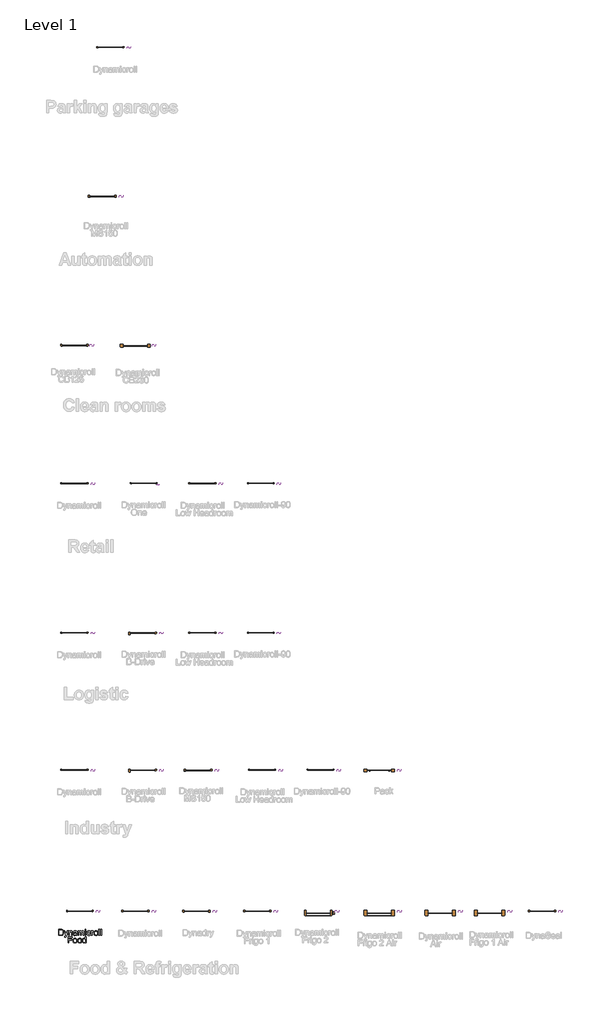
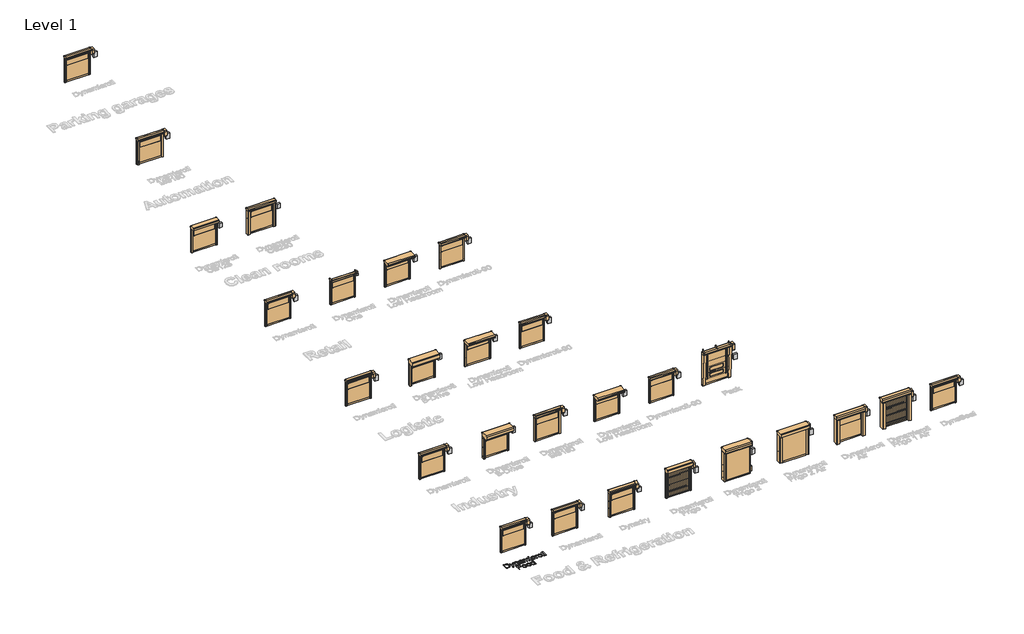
# One storey, part 1 of 18: 27 doors, 27 electric distribution boards, 1 proxy.
"""IFC4 building model written with IfcOpenShell, lengths in millimetres."""

from ifc_helpers import new_model, si_unit, origin, origin_with_axes, place, context, project, spatial, polyline, outline, extrude, transform, mapped, element, save
from components import door_8d8b76a4, door_111b3a7b, door_f3b390bc, door_73d46575, door_7dfef6e7, door_fc38a23d, door_0f29b29e, door_dcf74658, door_a66aba2e, door_ffd00a84, door_82254b21, door_781c7d04, door_c5269588, cb125_eadb58d3, cb230_7affb9d1, do_wpb_pack_pack_5cf3cf8c, ee_wpb_control_panel_bmp_sh_control_panel_one_fab0d9c8, ee_wpb_control_panel_bmp_sh_control_panel_pvc_26d0edfe, ee_wpb_control_panel_bmp_sh_control_panel_powder_coated_2337cf2d

model = new_model("IFC4")

# Units and contexts
model_context = context("Model", 3, world=origin())
ifc_project = project(units=[si_unit("LENGTHUNIT", "METRE", prefix="MILLI")], contexts=[model_context])

# Site, building, storey
site = spatial("IfcSite", under=ifc_project)
building = spatial("IfcBuilding", under=site)
storey = spatial("IfcBuildingStorey", under=building, Name="Level 1", Elevation=0.0)

# Proxy
placement = place(None, origin())
element("IfcBuildingElementProxy", 1, Name="500mm", ObjectType="500mm", at=placement, inside=storey, context=model_context, shape_type="SweptSolid", body=[
    extrude(outline(polyline([(202.3822984, 7606.4708973), (202.3822984, 8108.7524481), (375.6547181, 8108.7524481), (427.4341089, 8106.9436949), (465.2952976, 8101.5174355), (505.3331214, 8087.5685765), (539.1169513, 8065.5876273), (557.7333131, 8047.6227232), (573.851143, 8027.3278998), (587.470441, 8004.7031571), (598.5912072, 7979.7484951), (613.3984575, 7923.7691182), (618.3342076, 7860.309474), (614.9926128, 7806.3994333), (604.9678284, 7758.9579843), (589.7007256, 7718.567607), (570.6321755, 7685.810781), (548.6818831, 7659.9517424), (524.7695535, 7640.2547272), (497.3163596, 7625.6467463), (464.7434746, 7615.0548106), (426.9895848, 7608.6168756), (383.9933766, 7606.4708973), (202.3822984, 7606.4708973)]), holes=[polyline([(265.1674922, 7669.2560912), (376.2678547, 7669.2560912), (422.2224473, 7671.5246968), (457.0792663, 7678.3305137), (483.382829, 7689.2750031), (503.6776524, 7703.9596261), (525.489989, 7731.1369085), (541.8760662, 7766.3156242), (552.1307769, 7809.6490576), (555.5490137, 7861.2904927), (553.8743842, 7897.741467), (548.8504957, 7929.7165438), (540.4773482, 7957.2157229), (528.7549417, 7980.2390044), (514.6336381, 7999.3075545), (499.063799, 8014.9425393), (482.0454247, 8027.1439588), (463.5785149, 8035.911813), (427.4647657, 8043.4533939), (374.5510721, 8045.9672542), (265.1674922, 8045.9672542), (265.1674922, 7669.2560912)])]), origin_with_axes(), (0.0, 0.0, 1.0), 5.0),
    extrude(outline(polyline([(696.8156999, 7465.2042112), (688.9675506, 7525.6594857), (720.8506569, 7520.1412558), (737.6199445, 7521.8733669), (750.6490985, 7527.0697), (760.7965102, 7535.3623734), (768.9205709, 7546.3835048), (786.0883974, 7592.6140089), (790.9934906, 7607.819798), (657.5749537, 7975.3339112), (723.7937129, 7975.3339112), (794.5496833, 7770.5462672), (819.1977769, 7688.6312096), (843.8458706, 7760.9813353), (916.5638783, 7975.3339112), (982.2921281, 7975.3339112), (853.9013118, 7597.6417295), (820.5466776, 7515.7266719), (803.4708216, 7489.5763934), (784.1263601, 7471.4582051), (761.6549015, 7460.8815978), (735.1980547, 7457.356062), (717.0185528, 7459.3180993), (696.8156999, 7465.2042112)])), origin_with_axes(), (0.0, 0.0, 1.0), 5.0),
    extrude(outline(polyline([(1034.2861168, 7606.4708973), (1034.2861168, 7975.3339112), (1097.0713106, 7975.3339112), (1097.0713106, 7923.8304318), (1118.8836473, 7949.7967693), (1145.079911, 7968.3441533), (1175.6601018, 7979.4725836), (1210.6242198, 7983.1820604), (1241.5722926, 7980.1930192), (1269.9145347, 7971.2258956), (1293.5509529, 7957.3996639), (1310.3815542, 7939.8332986), (1321.8012244, 7918.572785), (1329.2048496, 7893.6641082), (1332.5157875, 7832.963579), (1332.5157875, 7606.4708973), (1269.7305937, 7606.4708973), (1269.7305937, 7824.5022932), (1267.9218406, 7856.9678792), (1262.4955811, 7880.0524744), (1252.4861252, 7896.5918358), (1236.9277825, 7909.4217204), (1216.9855126, 7917.65308), (1193.8242754, 7920.3968666), (1174.7595574, 7918.8563607), (1157.0514043, 7914.2348431), (1140.699816, 7906.5323139), (1125.7047926, 7895.7487729), (1113.1776442, 7880.6579469), (1104.2296811, 7860.0335625), (1098.8609032, 7833.8756198), (1097.0713106, 7802.1841188), (1097.0713106, 7606.4708973), (1034.2861168, 7606.4708973)])), origin_with_axes(), (0.0, 0.0, 1.0), 5.0),
    extrude(outline(polyline([(1654.289906, 7653.5597927), (1624.292195, 7627.8387099), (1593.4054358, 7611.0081086), (1560.9245213, 7601.7190882), (1526.1443443, 7598.6227481), (1498.1891448, 7600.4851507), (1473.6751748, 7606.0723585), (1452.6024342, 7615.3843715), (1434.9709232, 7628.4211897), (1421.0488889, 7644.3550786), (1411.1045788, 7662.3583038), (1405.1379926, 7682.4308651), (1403.1491306, 7704.5727627), (1406.1535002, 7730.6004139), (1415.1666091, 7754.2368321), (1429.0694829, 7774.4703418), (1446.743147, 7790.2892676), (1467.5131514, 7802.2454324), (1490.7050455, 7810.8906593), (1545.0289534, 7820.3329639), (1609.2243616, 7830.2657777), (1653.922024, 7841.9153743), (1654.289906, 7855.8948901), (1649.9672925, 7883.9152354), (1636.9994522, 7902.2480215), (1623.924313, 7910.1881412), (1607.9980883, 7915.8596553), (1567.5923825, 7920.3968666), (1530.1910463, 7917.3771685), (1504.0714246, 7908.3180744), (1486.2598047, 7891.5641152), (1473.7824737, 7865.4598219), (1410.9972798, 7873.3079712), (1421.8957839, 7907.6436241), (1438.1592338, 7934.621637), (1461.3051427, 7955.2536856), (1492.8510238, 7970.5514452), (1531.432648, 7980.0244066), (1575.6857863, 7983.1820604), (1618.1301715, 7980.3922886), (1651.7760457, 7972.0229732), (1677.1445749, 7959.4383433), (1694.7569255, 7944.0026279), (1706.4371788, 7924.9187494), (1714.0094165, 7901.3896301), (1717.0750998, 7846.4525855), (1717.0750998, 7768.3389752), (1720.2634105, 7659.2619636), (1724.9845627, 7632.2992791), (1732.7713983, 7606.4708973), (1669.9862044, 7606.4708973), (1659.9307632, 7628.2985624), (1654.289906, 7653.5597927)]), holes=[polyline([(1654.289906, 7779.1301804), (1612.1061039, 7768.6762004), (1552.99973, 7759.8776893), (1498.9823904, 7749.6996208), (1484.9262325, 7742.7405197), (1474.5182377, 7733.144931), (1468.0803028, 7721.6486187), (1465.9343245, 7708.9873467), (1470.6094915, 7690.3173354), (1484.6349925, 7675.0195758), (1507.7042593, 7664.8108504), (1539.5107235, 7661.407942), (1573.2332397, 7665.163404), (1603.0316813, 7676.4297901), (1627.1892657, 7693.0304651), (1643.9892101, 7712.7887939), (1651.4388205, 7733.144931), (1653.922024, 7761.3492173), (1654.289906, 7779.1301804)])]), origin_with_axes(), (0.0, 0.0, 1.0), 5.0),
    extrude(outline(polyline([(1803.4047414, 7606.4708973), (1803.4047414, 7975.3339112), (1866.1899352, 7975.3339112), (1866.1899352, 7914.633382), (1885.0745443, 7942.5157715), (1909.354756, 7964.358765), (1938.2028358, 7978.4762365), (1970.7910492, 7983.1820604), (2005.7091819, 7978.384266), (2033.6988703, 7963.990883), (2054.6068304, 7940.952273), (2068.2797779, 7910.218798), (2091.1651037, 7942.1402253), (2117.2693969, 7964.9412448), (2146.5926576, 7978.6218565), (2179.1348858, 7983.1820604), (2204.2696567, 7981.2851689), (2226.3310801, 7975.5944943), (2245.319156, 7966.1100366), (2261.2338844, 7952.8317958), (2273.8146822, 7935.6064878), (2282.8009663, 7914.2808284), (2288.1927368, 7888.8548176), (2289.9899937, 7859.3284554), (2289.9899937, 7606.4708973), (2227.2047998, 7606.4708973), (2227.2047998, 7832.3504424), (2225.7486002, 7863.6663972), (2221.3800016, 7884.7736267), (2213.1946272, 7899.2283234), (2200.2881005, 7910.58668), (2183.6874255, 7917.9443199), (2164.419606, 7920.3968666), (2146.6271466, 7918.8257039), (2130.4058498, 7914.1122158), (2115.7557158, 7906.2564024), (2102.6767444, 7895.2582636), (2091.9200282, 7880.7959026), (2084.2366594, 7862.5474228), (2079.6266382, 7840.5128241), (2078.0899644, 7814.6921066), (2078.0899644, 7606.4708973), (2015.3047706, 7606.4708973), (2015.3047706, 7839.3402003), (2011.6719359, 7874.8408128), (2000.7734318, 7900.1633568), (1992.3466348, 7909.0155173), (1981.5975828, 7915.3384891), (1953.1327134, 7920.3968666), (1928.9444722, 7917.0246149), (1906.6569547, 7906.9078601), (1888.2628549, 7890.2918566), (1875.7548671, 7867.4218593), (1868.5811682, 7835.6920372), (1866.1899352, 7792.4965596), (1866.1899352, 7606.4708973), (1803.4047414, 7606.4708973)])), origin_with_axes(), (0.0, 0.0, 1.0), 5.0),
    extrude(outline(polyline([(2384.1677844, 8045.9672542), (2384.1677844, 8108.7524481), (2446.9529783, 8108.7524481), (2446.9529783, 8045.9672542), (2384.1677844, 8045.9672542)])), origin_with_axes(), (0.0, 0.0, 1.0), 5.0),
    extrude(outline(polyline([(2384.1677844, 7606.4708973), (2384.1677844, 7975.3339112), (2446.9529783, 7975.3339112), (2446.9529783, 7606.4708973), (2384.1677844, 7606.4708973)])), origin_with_axes(), (0.0, 0.0, 1.0), 5.0),
    extrude(outline(polyline([(2776.5752459, 7739.8894343), (2839.3604398, 7732.041285), (2832.5316302, 7702.4152881), (2821.8553882, 7676.1998638), (2807.3317136, 7653.3950122), (2788.9606064, 7634.0007333), (2767.5161518, 7618.5228648), (2743.7724347, 7607.4672444), (2717.7294551, 7600.8338722), (2689.3872131, 7598.6227481), (2654.1740084, 7601.7075919), (2622.6013025, 7610.9621234), (2594.6690956, 7626.3863424), (2570.3773876, 7647.9802491), (2550.7148614, 7675.3376404), (2536.6701998, 7708.0523133), (2528.2434029, 7746.1242677), (2525.4344706, 7789.5535036), (2530.2322649, 7845.4255816), (2544.625648, 7893.8480492), (2555.4781668, 7914.7981624), (2568.844546, 7932.9508396), (2584.7247855, 7948.3060808), (2603.1188852, 7960.863886), (2644.1223993, 7977.6025168), (2688.5288218, 7983.1820604), (2716.3843866, 7981.2660083), (2741.5804711, 7975.5178522), (2764.1170755, 7965.9375919), (2783.9941995, 7952.5252275), (2800.8746181, 7935.5873273), (2814.4211062, 7915.4304596), (2824.6336637, 7892.0546245), (2831.5122906, 7865.4598219), (2768.7270967, 7857.6116727), (2757.3380833, 7885.0035529), (2739.6031054, 7904.6392544), (2716.5031818, 7916.4574635), (2689.0193311, 7920.3968666), (2667.6860075, 7918.4578219), (2648.4450127, 7912.6406878), (2631.2963468, 7902.9454644), (2616.2400097, 7889.3721516), (2603.9811086, 7871.6065169), (2595.2247507, 7849.3343278), (2589.970936, 7822.5555843), (2588.2196644, 7791.2702863), (2589.9326149, 7759.5136394), (2595.0714666, 7732.4244954), (2603.6362193, 7710.0028543), (2615.626873, 7692.2487159), (2630.384306, 7678.7558773), (2647.2493962, 7669.1181354), (2666.2221437, 7663.3354903), (2687.3025484, 7661.407942), (2719.8141198, 7666.2210647), (2746.470236, 7680.660433), (2757.2499449, 7691.5819298), (2765.8606828, 7705.0939289), (2776.5752459, 7739.8894343)])), origin_with_axes(), (0.0, 0.0, 1.0), 5.0),
    extrude(outline(polyline([(2894.2974844, 7606.4708973), (2894.2974844, 7975.3339112), (2949.234529, 7975.3339112), (2949.234529, 7920.7647486), (2969.5293524, 7952.4026001), (2988.2300205, 7971.0419546), (3006.9920023, 7980.1470339), (3027.4707666, 7983.1820604), (3058.7407362, 7978.3382808), (3090.5012152, 7963.806942), (3069.5319414, 7907.5209967), (3047.4590217, 7917.1778991), (3025.386102, 7920.3968666), (3006.6394487, 7917.3005264), (2989.8854895, 7908.0115061), (2976.3504977, 7893.2349126), (2967.2607468, 7873.6758532), (2959.6271954, 7838.6044363), (2957.0826782, 7800.3447088), (2957.0826782, 7606.4708973), (2894.2974844, 7606.4708973)])), origin_with_axes(), (0.0, 0.0, 1.0), 5.0),
    extrude(outline(polyline([(3114.0456628, 7790.9024043), (3117.4409071, 7838.6734142), (3127.6266398, 7879.8378766), (3144.6028611, 7914.3957915), (3168.3695708, 7942.3471589), (3192.2972289, 7960.2124283), (3218.7080905, 7972.973335), (3247.6021555, 7980.6298791), (3278.979424, 7983.1820604), (3313.6178131, 7980.074224), (3344.9376001, 7970.7507146), (3372.9387848, 7955.2115325), (3397.6213675, 7933.4566774), (3417.7667388, 7906.2219134), (3432.1562898, 7874.2430046), (3440.7900203, 7837.5199508), (3443.6679305, 7796.0527522), (3438.5788963, 7732.6237649), (3432.2176034, 7706.5884495), (3423.3117935, 7684.339253), (3411.9725974, 7665.1212508), (3398.3111462, 7648.1795185), (3382.3274399, 7633.5140561), (3364.0214786, 7621.1248635), (3323.293876, 7604.248277), (3278.979424, 7598.6227481), (3243.8351972, 7601.7190882), (3212.2241703, 7611.0081086), (3184.1463434, 7626.4898092), (3159.6017166, 7648.1641901), (3139.6709431, 7675.6633693), (3125.4346763, 7708.6194647), (3116.8929162, 7747.0324763), (3114.0456628, 7790.9024043)]), holes=[polyline([(3176.8308567, 7791.0250316), (3178.647274, 7760.5713002), (3184.0965261, 7734.2025918), (3193.1786129, 7711.9189063), (3205.8935343, 7693.7202439), (3221.3599065, 7679.5836118), (3238.6963455, 7669.4860174), (3257.9028514, 7663.4274608), (3278.979424, 7661.407942), (3299.9486977, 7663.4389571), (3319.0785615, 7669.5320027), (3336.3690153, 7679.6870786), (3351.8200591, 7693.9041849), (3364.5349805, 7712.2829562), (3373.6170673, 7734.9230273), (3379.0663193, 7761.8243982), (3380.8827367, 7792.9870689), (3379.054823, 7822.4751101), (3373.571082, 7848.1540398), (3364.4315137, 7870.0238579), (3351.6361181, 7888.0845646), (3336.1275927, 7902.2211967), (3318.8486352, 7912.3187911), (3299.7992457, 7918.3773477), (3278.979424, 7920.3968666), (3257.9028514, 7918.3850119), (3238.6963455, 7912.3494479), (3221.3599065, 7902.2901746), (3205.8935343, 7888.207192), (3193.1786129, 7870.062179), (3184.0965261, 7847.8168146), (3178.647274, 7821.4710988), (3176.8308567, 7791.0250316)])]), origin_with_axes(), (0.0, 0.0, 1.0), 5.0),
    extrude(outline(polyline([(3514.3012736, 7606.4708973), (3514.3012736, 8108.7524481), (3577.0864674, 8108.7524481), (3577.0864674, 7606.4708973), (3514.3012736, 7606.4708973)])), origin_with_axes(), (0.0, 0.0, 1.0), 5.0),
    extrude(outline(polyline([(3671.2642582, 7606.4708973), (3671.2642582, 8108.7524481), (3734.0494521, 8108.7524481), (3734.0494521, 7606.4708973), (3671.2642582, 7606.4708973)])), origin_with_axes(), (0.0, 0.0, 1.0), 5.0),
    extrude(outline(polyline([(987.1972214, 6996.5968081), (987.1972214, 7498.8783589), (1324.6676383, 7498.8783589), (1324.6676383, 7436.093165), (1049.9824152, 7436.093165), (1049.9824152, 7286.9783296), (1285.4268922, 7286.9783296), (1285.4268922, 7224.1931358), (1049.9824152, 7224.1931358), (1049.9824152, 6996.5968081), (987.1972214, 6996.5968081)])), origin_with_axes(), (0.0, 0.0, 1.0), 5.0),
    extrude(outline(polyline([(1387.4528322, 7181.028315), (1390.8480764, 7228.7993249), (1401.0338091, 7269.9637874), (1418.0100304, 7304.5217023), (1441.7767401, 7332.4730697), (1465.7043982, 7350.3383391), (1492.1152598, 7363.0992458), (1521.0093248, 7370.7557898), (1552.3865933, 7373.3079712), (1587.0249824, 7370.2001347), (1618.3447694, 7360.8766254), (1646.3459542, 7345.3374432), (1671.0285368, 7323.5825882), (1691.1739081, 7296.3478242), (1705.5634591, 7264.3689154), (1714.1971896, 7227.6458616), (1717.0750998, 7186.178663), (1711.9860656, 7122.7496756), (1705.6247727, 7096.7143603), (1696.7189628, 7074.4651638), (1685.3797667, 7055.2471616), (1671.7183155, 7038.3054293), (1655.7346092, 7023.6399669), (1637.4286479, 7011.2507743), (1596.7010453, 6994.3741877), (1552.3865933, 6988.7486589), (1517.2423665, 6991.844999), (1485.6313396, 7001.1340194), (1457.5535128, 7016.61572), (1433.0088859, 7038.2901009), (1413.0781124, 7065.78928), (1398.8418456, 7098.7453754), (1390.3000855, 7137.1583871), (1387.4528322, 7181.028315)]), holes=[polyline([(1450.238026, 7181.1509424), (1452.0544433, 7150.6972109), (1457.5036954, 7124.3285025), (1466.5857822, 7102.0448171), (1479.3007036, 7083.8461546), (1494.7670758, 7069.7095226), (1512.1035148, 7059.6119282), (1531.3100207, 7053.5533716), (1552.3865933, 7051.5338527), (1573.355867, 7053.5648679), (1592.4857308, 7059.6579135), (1609.7761846, 7069.8129894), (1625.2272284, 7084.0300956), (1637.9421498, 7102.408867), (1647.0242366, 7125.0489381), (1652.4734886, 7151.950309), (1654.289906, 7183.1129797), (1652.4619923, 7212.6010208), (1646.9782513, 7238.2799505), (1637.838683, 7260.1497687), (1625.0432874, 7278.2104754), (1609.534762, 7292.3471075), (1592.2558045, 7302.4447019), (1573.206415, 7308.5032585), (1552.3865933, 7310.5227773), (1531.3100207, 7308.5109227), (1512.1035148, 7302.4753587), (1494.7670758, 7292.4160854), (1479.3007036, 7278.3331028), (1466.5857822, 7260.1880898), (1457.5036954, 7237.9427254), (1452.0544433, 7211.5970096), (1450.238026, 7181.1509424)])]), origin_with_axes(), (0.0, 0.0, 1.0), 5.0),
    extrude(outline(polyline([(1772.0121444, 7181.028315), (1775.4073887, 7228.7993249), (1785.5931214, 7269.9637874), (1802.5693427, 7304.5217023), (1826.3360524, 7332.4730697), (1850.2637105, 7350.3383391), (1876.6745721, 7363.0992458), (1905.5686371, 7370.7557898), (1936.9459056, 7373.3079712), (1971.5842947, 7370.2001347), (2002.9040817, 7360.8766254), (2030.9052664, 7345.3374432), (2055.5878491, 7323.5825882), (2075.7332204, 7296.3478242), (2090.1227714, 7264.3689154), (2098.7565019, 7227.6458616), (2101.6344121, 7186.178663), (2096.5453779, 7122.7496756), (2090.184085, 7096.7143603), (2081.2782751, 7074.4651638), (2069.939079, 7055.2471616), (2056.2776278, 7038.3054293), (2040.2939215, 7023.6399669), (2021.9879602, 7011.2507743), (1981.2603576, 6994.3741877), (1936.9459056, 6988.7486589), (1901.8016788, 6991.844999), (1870.1906519, 7001.1340194), (1842.112825, 7016.61572), (1817.5681982, 7038.2901009), (1797.6374247, 7065.78928), (1783.4011579, 7098.7453754), (1774.8593978, 7137.1583871), (1772.0121444, 7181.028315)]), holes=[polyline([(1834.7973383, 7181.1509424), (1836.6137556, 7150.6972109), (1842.0630077, 7124.3285025), (1851.1450944, 7102.0448171), (1863.8600159, 7083.8461546), (1879.3263881, 7069.7095226), (1896.6628271, 7059.6119282), (1915.869333, 7053.5533716), (1936.9459056, 7051.5338527), (1957.9151793, 7053.5648679), (1977.0450431, 7059.6579135), (1994.3354969, 7069.8129894), (2009.7865407, 7084.0300956), (2022.5014621, 7102.408867), (2031.5835489, 7125.0489381), (2037.0328009, 7151.950309), (2038.8492183, 7183.1129797), (2037.0213046, 7212.6010208), (2031.5375636, 7238.2799505), (2022.3979953, 7260.1497687), (2009.6025997, 7278.2104754), (1994.0940743, 7292.3471075), (1976.8151168, 7302.4447019), (1957.7657273, 7308.5032585), (1936.9459056, 7310.5227773), (1915.869333, 7308.5109227), (1896.6628271, 7302.4753587), (1879.3263881, 7292.4160854), (1863.8600159, 7278.3331028), (1851.1450944, 7260.1880898), (1842.0630077, 7237.9427254), (1836.6137556, 7211.5970096), (1834.7973383, 7181.1509424)])]), origin_with_axes(), (0.0, 0.0, 1.0), 5.0),
    extrude(outline(polyline([(2399.8640829, 6996.5968081), (2399.8640829, 7055.8258093), (2381.0791085, 7026.479556), (2358.3240743, 7005.5179465), (2331.5989801, 6992.9409808), (2300.9038262, 6988.7486589), (2260.3141794, 6994.8187118), (2223.1580979, 7013.0288706), (2191.7041873, 7042.1068766), (2168.2210532, 7080.7804713), (2153.5977439, 7127.4861563), (2148.7233075, 7180.660433), (2153.2145335, 7233.1755878), (2166.6882116, 7280.6017084), (2176.7896381, 7301.7319305), (2189.1290133, 7320.2409934), (2203.7063374, 7336.128897), (2220.5216102, 7349.3956415), (2258.4900978, 7367.3298888), (2300.6585715, 7373.3079712), (2331.3767181, 7369.031343), (2358.5386721, 7356.2014584), (2381.5619536, 7336.5351001), (2399.8640829, 7311.7490507), (2399.8640829, 7498.8783589), (2462.6492767, 7498.8783589), (2462.6492767, 6996.5968081), (2399.8640829, 6996.5968081)]), holes=[polyline([(2211.5085013, 7180.9056877), (2213.2789334, 7150.4596205), (2218.5902298, 7124.1139047), (2227.4423903, 7101.8685403), (2239.835415, 7083.7235273), (2254.6350011, 7069.6405447), (2270.7068457, 7059.5812714), (2288.050949, 7053.5457074), (2306.6673108, 7051.5338527), (2325.371811, 7053.4537369), (2342.6124474, 7059.2133894), (2358.38922, 7068.8128102), (2372.7021289, 7082.2519993), (2384.5854838, 7099.6382557), (2393.0735944, 7121.0788782), (2398.1664608, 7146.5738669), (2399.8640829, 7176.1232218), (2398.1358039, 7208.51983), (2392.9509671, 7236.3025848), (2384.3095723, 7259.4714863), (2372.2116196, 7278.0265344), (2357.5844782, 7292.2436407), (2341.3555172, 7302.3987166), (2323.5247368, 7308.4917622), (2304.0921368, 7310.5227773), (2285.107893, 7308.5722363), (2267.7637898, 7302.7206134), (2252.0598271, 7292.9679084), (2237.996005, 7279.3141214), (2226.4077222, 7261.4603483), (2218.1303773, 7239.107685), (2213.1639703, 7212.2561315), (2211.5085013, 7180.9056877)])]), origin_with_axes(), (0.0, 0.0, 1.0), 5.0),
])

# Doors
door_shape = door_8d8b76a4(model_context)
element("IfcDoor", 2, ObjectType="DO_WPB_Dynamicroll_BMP : Dynamicroll B-Drive", at=placement, inside=storey, context=model_context, shape_type="MappedRepresentation", body=[
    mapped(door_shape, transform((7088.8652486, 32462.1380074, 0.0), x_axis=(1.0, 0.0, 0.0), y_axis=(0.0, 1.0, 0.0), z_axis=(0.0, 0.0, 1.0))),
])
element("IfcDoor", 3, ObjectType="DO_WPB_Dynamicroll_BMP : Dynamicroll B-Drive", at=placement, inside=storey, context=model_context, shape_type="MappedRepresentation", body=[
    mapped(door_shape, transform((7088.8652486, 21224.4832479, 0.0), x_axis=(1.0, 0.0, 0.0), y_axis=(0.0, 1.0, 0.0), z_axis=(0.0, 0.0, 1.0))),
])
door_2_shape = door_111b3a7b(model_context)
element("IfcDoor", 4, ObjectType="DO_WPB_Dynamicroll_BMP : Dynamicroll Low Headroom", at=placement, inside=storey, context=model_context, shape_type="MappedRepresentation", body=[
    mapped(door_2_shape, transform((11988.8652486, 32462.1380074, 0.0), x_axis=(1.0, 0.0, 0.0), y_axis=(0.0, 1.0, 0.0), z_axis=(0.0, 0.0, 1.0))),
])
element("IfcDoor", 5, ObjectType="DO_WPB_Dynamicroll_BMP : Dynamicroll Low Headroom", at=placement, inside=storey, context=model_context, shape_type="MappedRepresentation", body=[
    mapped(door_2_shape, transform((16888.8652486, 21224.4832479, 0.0), x_axis=(1.0, 0.0, 0.0), y_axis=(0.0, 1.0, 0.0), z_axis=(0.0, 0.0, 1.0))),
])
element("IfcDoor", 6, ObjectType="DO_WPB_Dynamicroll_BMP : Dynamicroll Low Headroom", at=placement, inside=storey, context=model_context, shape_type="MappedRepresentation", body=[
    mapped(door_2_shape, transform((11988.8652486, 44698.8509751, 0.0), x_axis=(1.0, 0.0, 0.0), y_axis=(0.0, 1.0, 0.0), z_axis=(0.0, 0.0, 1.0))),
])
door_3_shape = door_f3b390bc(model_context)
element("IfcDoor", 7, ObjectType="DO_WPB_Dynamicroll_BMP : Dynamicroll One", at=placement, inside=storey, context=model_context, shape_type="MappedRepresentation", body=[
    mapped(door_3_shape, transform((7181.7584674, 44698.8509751, 0.0), x_axis=(1.0, 0.0, 0.0), y_axis=(0.0, 1.0, 0.0), z_axis=(0.0, 0.0, 1.0))),
])
door_4_shape = door_73d46575(model_context)
element("IfcDoor", 8, ObjectType="DO_WPB_Dynamicroll_BMP : Dynamicroll", at=placement, inside=storey, context=model_context, shape_type="MappedRepresentation", body=[
    mapped(door_4_shape, transform((6497.2684086, 9654.9840976, 0.0), x_axis=(1.0, 0.0, 0.0), y_axis=(0.0, 1.0, 0.0), z_axis=(0.0, 0.0, 1.0))),
])
element("IfcDoor", 9, ObjectType="DO_WPB_Dynamicroll_BMP : Dynamicroll", at=placement, inside=storey, context=model_context, shape_type="MappedRepresentation", body=[
    mapped(door_4_shape, transform((1488.8652486, 32462.1380074, 0.0), x_axis=(1.0, 0.0, 0.0), y_axis=(0.0, 1.0, 0.0), z_axis=(0.0, 0.0, 1.0))),
])
element("IfcDoor", 10, ObjectType="DO_WPB_Dynamicroll_BMP : Dynamicroll", at=placement, inside=storey, context=model_context, shape_type="MappedRepresentation", body=[
    mapped(door_4_shape, transform((1488.8652486, 21224.4832479, 0.0), x_axis=(1.0, 0.0, 0.0), y_axis=(0.0, 1.0, 0.0), z_axis=(0.0, 0.0, 1.0))),
])
element("IfcDoor", 11, ObjectType="DO_WPB_Dynamicroll_BMP : Dynamicroll", at=placement, inside=storey, context=model_context, shape_type="MappedRepresentation", body=[
    mapped(door_4_shape, transform((1488.8652486, 44698.8509751, 0.0), x_axis=(1.0, 0.0, 0.0), y_axis=(0.0, 1.0, 0.0), z_axis=(0.0, 0.0, 1.0))),
])
element("IfcDoor", 12, ObjectType="DO_WPB_Dynamicroll_BMP : Dynamicroll", at=placement, inside=storey, context=model_context, shape_type="MappedRepresentation", body=[
    mapped(door_4_shape, transform((4445.6536388, 80429.8524972, 0.0), x_axis=(1.0, 0.0, 0.0), y_axis=(0.0, 1.0, 0.0), z_axis=(0.0, 0.0, 1.0))),
])
door_5_shape = door_7dfef6e7(model_context)
element("IfcDoor", 13, ObjectType="DO_WPB_Dynamicroll_BMP : Dynamicroll-90", at=placement, inside=storey, context=model_context, shape_type="MappedRepresentation", body=[
    mapped(door_5_shape, transform((16781.7584674, 32462.1380074, 0.0), x_axis=(1.0, 0.0, 0.0), y_axis=(0.0, 1.0, 0.0), z_axis=(0.0, 0.0, 1.0))),
])
element("IfcDoor", 14, ObjectType="DO_WPB_Dynamicroll_BMP : Dynamicroll-90", at=placement, inside=storey, context=model_context, shape_type="MappedRepresentation", body=[
    mapped(door_5_shape, transform((21681.7584674, 21224.4832479, 0.0), x_axis=(1.0, 0.0, 0.0), y_axis=(0.0, 1.0, 0.0), z_axis=(0.0, 0.0, 1.0))),
])
element("IfcDoor", 15, ObjectType="DO_WPB_Dynamicroll_BMP : Dynamicroll-90", at=placement, inside=storey, context=model_context, shape_type="MappedRepresentation", body=[
    mapped(door_5_shape, transform((16781.7584674, 44698.8509751, 0.0), x_axis=(1.0, 0.0, 0.0), y_axis=(0.0, 1.0, 0.0), z_axis=(0.0, 0.0, 1.0))),
])
door_6_shape = door_fc38a23d(model_context)
element("IfcDoor", 16, ObjectType="DO_WPB_Dynamicroll_BMP : Dynamicroll MS150", at=placement, inside=storey, context=model_context, shape_type="MappedRepresentation", body=[
    mapped(door_6_shape, transform((11635.9345844, 21224.4832479, 0.0), x_axis=(1.0, 0.0, 0.0), y_axis=(0.0, 1.0, 0.0), z_axis=(0.0, 0.0, 1.0))),
])
element("IfcDoor", 17, ObjectType="DO_WPB_Dynamicroll_BMP : Dynamicroll MS150", at=placement, inside=storey, context=model_context, shape_type="MappedRepresentation", body=[
    mapped(door_6_shape, transform((3788.8652486, 68233.2125546, 0.0), x_axis=(1.0, 0.0, 0.0), y_axis=(0.0, 1.0, 0.0), z_axis=(0.0, 0.0, 1.0))),
])
door_7_shape = door_0f29b29e(model_context)
element("IfcDoor", 18, ObjectType="DO_WPB_Dynamicroll_BMP : Dynamicroll Food Inox", at=placement, inside=storey, context=model_context, shape_type="MappedRepresentation", body=[
    mapped(door_7_shape, transform((1948.7786866, 9654.9840976, 0.0), x_axis=(1.0, 0.0, 0.0), y_axis=(0.0, 1.0, 0.0), z_axis=(0.0, 0.0, 1.0))),
])
door_8_shape = door_dcf74658(model_context)
element("IfcDoor", 19, ObjectType="DO_WPB_Dynadry_BMP : Dynadry", at=placement, inside=storey, context=model_context, shape_type="MappedRepresentation", body=[
    mapped(door_8_shape, transform((11497.2684086, 9654.9840976, 0.0), x_axis=(1.0, 0.0, 0.0), y_axis=(0.0, 1.0, 0.0), z_axis=(0.0, 0.0, 1.0))),
])
door_9_shape = door_a66aba2e(model_context)
element("IfcDoor", 20, ObjectType="DO_WPB_Dynamicroll Frigo_Air_BMP : Dynamicroll Frigo1", at=placement, inside=storey, context=model_context, shape_type="MappedRepresentation", body=[
    mapped(door_9_shape, transform((16497.2684086, 9654.9840976, 0.0), x_axis=(1.0, 0.0, 0.0), y_axis=(0.0, 1.0, 0.0), z_axis=(0.0, 0.0, 1.0))),
])
door_10_shape = door_ffd00a84(model_context)
element("IfcDoor", 21, ObjectType="DO_WPB_Dynamicroll Frigo_Air_BMP : Dynamicroll Frigo2", at=placement, inside=storey, context=model_context, shape_type="MappedRepresentation", body=[
    mapped(door_10_shape, transform((21497.2684086, 9654.9840976, 0.0), x_axis=(1.0, 0.0, 0.0), y_axis=(0.0, 1.0, 0.0), z_axis=(0.0, 0.0, 1.0))),
])
door_11_shape = door_82254b21(model_context)
element("IfcDoor", 22, ObjectType="DO_WPB_Dynamicroll Frigo_Air_BMP : Dynamicroll Frigo2 Air", at=placement, inside=storey, context=model_context, shape_type="MappedRepresentation", body=[
    mapped(door_11_shape, transform((26497.2684086, 9654.9840976, 0.0), x_axis=(1.0, 0.0, 0.0), y_axis=(0.0, 1.0, 0.0), z_axis=(0.0, 0.0, 1.0))),
])
door_12_shape = door_781c7d04(model_context)
element("IfcDoor", 23, ObjectType="DO_WPB_Dynamicroll Frigo_Air_BMP : Dynamicroll Air", at=placement, inside=storey, context=model_context, shape_type="MappedRepresentation", body=[
    mapped(door_12_shape, transform((31497.2684086, 9654.9840976, 0.0), x_axis=(1.0, 0.0, 0.0), y_axis=(0.0, 1.0, 0.0), z_axis=(0.0, 0.0, 1.0))),
])
door_13_shape = door_c5269588(model_context)
element("IfcDoor", 24, ObjectType="DO_WPB_Dynamicroll Frigo_Air_BMP : Dynamicroll Frigo1 Air", at=placement, inside=storey, context=model_context, shape_type="MappedRepresentation", body=[
    mapped(door_13_shape, transform((35540.4620886, 9654.9840976, 0.0), x_axis=(1.0, 0.0, 0.0), y_axis=(0.0, 1.0, 0.0), z_axis=(0.0, 0.0, 1.0))),
])
element("IfcDoor", 25, ObjectType="DO_WPB_DynaSeal_BMP : DynaSeal", at=placement, inside=storey, context=model_context, shape_type="MappedRepresentation", body=[
    mapped(door_4_shape, transform((39840.4620886, 9654.9840976, 0.0), x_axis=(1.0, 0.0, 0.0), y_axis=(0.0, 1.0, 0.0), z_axis=(0.0, 0.0, 1.0))),
])
cb125_shape = cb125_eadb58d3(model_context)
element("IfcDoor", 26, ObjectType="DO_WPB_Dynamicroll Cleanroom_BMP : CB125", at=placement, inside=storey, context=model_context, shape_type="MappedRepresentation", body=[
    mapped(cb125_shape, transform((1497.2684086, 56020.8553836, 0.0), x_axis=(1.0, 0.0, 0.0), y_axis=(0.0, 1.0, 0.0), z_axis=(0.0, 0.0, 1.0))),
])
cb230_shape = cb230_7affb9d1(model_context)
element("IfcDoor", 27, ObjectType="DO_WPB_Dynamicroll Cleanroom_BMP : CB230", at=placement, inside=storey, context=model_context, shape_type="MappedRepresentation", body=[
    mapped(cb230_shape, transform((6497.2684086, 56020.8553836, 0.0), x_axis=(1.0, 0.0, 0.0), y_axis=(0.0, 1.0, 0.0), z_axis=(0.0, 0.0, 1.0))),
])
do_wpb_pack_pack_shape = do_wpb_pack_pack_5cf3cf8c(model_context)
element("IfcDoor", 28, ObjectType="DO_WPB_Pack : Pack", at=placement, inside=storey, context=model_context, shape_type="MappedRepresentation", body=[
    mapped(do_wpb_pack_pack_shape, transform((26497.2684086, 21224.4832479, 0.0), x_axis=(1.0, 0.0, 0.0), y_axis=(0.0, 1.0, 0.0), z_axis=(0.0, 0.0, 1.0))),
])

# Electric distribution boards
ee_wpb_control_panel_bmp_sh_control_panel_one_shape = ee_wpb_control_panel_bmp_sh_control_panel_one_fab0d9c8(model_context)
element("IfcElectricDistributionBoard", 29, ObjectType="EE_WPB_control panel_BMP_SH : Control panel One", at=placement, inside=storey, context=model_context, shape_type="MappedRepresentation", body=[
    mapped(ee_wpb_control_panel_bmp_sh_control_panel_one_shape, transform((8371.7584674, 44573.8509751, 2050.0), x_axis=(1.0, 0.0, 0.0), y_axis=(0.0, 1.0, 0.0), z_axis=(0.0, 0.0, 1.0))),
])
ee_wpb_control_panel_bmp_sh_control_panel_pvc_shape = ee_wpb_control_panel_bmp_sh_control_panel_pvc_26d0edfe(model_context)
element("IfcElectricDistributionBoard", 30, ObjectType="EE_WPB_control panel_BMP_SH : Control panel PVC", at=placement, inside=storey, context=model_context, shape_type="MappedRepresentation", body=[
    mapped(ee_wpb_control_panel_bmp_sh_control_panel_pvc_shape, transform((2922.2684086, 56020.8553836, 1500.0), x_axis=(1.0, 0.0, 0.0), y_axis=(0.0, 1.0, 0.0), z_axis=(0.0, 0.0, 1.0))),
])
element("IfcElectricDistributionBoard", 31, ObjectType="EE_WPB_control panel_BMP_SH : Control panel PVC", at=placement, inside=storey, context=model_context, shape_type="MappedRepresentation", body=[
    mapped(ee_wpb_control_panel_bmp_sh_control_panel_pvc_shape, transform((8027.2684086, 56020.8553836, 1500.0), x_axis=(1.0, 0.0, 0.0), y_axis=(0.0, 1.0, 0.0), z_axis=(0.0, 0.0, 1.0))),
])
element("IfcElectricDistributionBoard", 32, ObjectType="EE_WPB_control panel_BMP_SH : Control panel PVC", at=placement, inside=storey, context=model_context, shape_type="MappedRepresentation", body=[
    mapped(ee_wpb_control_panel_bmp_sh_control_panel_pvc_shape, transform((13022.2684086, 9654.9840976, 1500.0), x_axis=(1.0, 0.0, 0.0), y_axis=(0.0, 1.0, 0.0), z_axis=(0.0, 0.0, 1.0))),
])
element("IfcElectricDistributionBoard", 33, ObjectType="EE_WPB_control panel_BMP_SH : Control panel PVC", at=placement, inside=storey, context=model_context, shape_type="MappedRepresentation", body=[
    mapped(ee_wpb_control_panel_bmp_sh_control_panel_pvc_shape, transform((3438.7786866, 9654.9840976, 1500.0), x_axis=(1.0, 0.0, 0.0), y_axis=(0.0, 1.0, 0.0), z_axis=(0.0, 0.0, 1.0))),
])
ee_wpb_control_panel_bmp_sh_control_panel_powder_coated_shape = ee_wpb_control_panel_bmp_sh_control_panel_powder_coated_2337cf2d(model_context)
element("IfcElectricDistributionBoard", 34, ObjectType="EE_WPB_control panel_BMP_SH : Control panel Powder coated steel", at=placement, inside=storey, context=model_context, shape_type="MappedRepresentation", body=[
    mapped(ee_wpb_control_panel_bmp_sh_control_panel_powder_coated_shape, transform((18022.2684086, 9654.9840976, 1500.0), x_axis=(1.0, 0.0, 0.0), y_axis=(0.0, 1.0, 0.0), z_axis=(0.0, 0.0, 1.0))),
])
element("IfcElectricDistributionBoard", 35, ObjectType="EE_WPB_control panel_BMP_SH : Control panel Powder coated steel", at=placement, inside=storey, context=model_context, shape_type="MappedRepresentation", body=[
    mapped(ee_wpb_control_panel_bmp_sh_control_panel_powder_coated_shape, transform((23032.2684086, 9654.9840976, 1500.0), x_axis=(1.0, 0.0, 0.0), y_axis=(0.0, 1.0, 0.0), z_axis=(0.0, 0.0, 1.0))),
])
element("IfcElectricDistributionBoard", 36, ObjectType="EE_WPB_control panel_BMP_SH : Control panel Powder coated steel", at=placement, inside=storey, context=model_context, shape_type="MappedRepresentation", body=[
    mapped(ee_wpb_control_panel_bmp_sh_control_panel_powder_coated_shape, transform((28157.2684086, 9654.9840976, 1500.0), x_axis=(1.0, 0.0, 0.0), y_axis=(0.0, 1.0, 0.0), z_axis=(0.0, 0.0, 1.0))),
])
element("IfcElectricDistributionBoard", 37, ObjectType="EE_WPB_control panel_BMP_SH : Control panel Powder coated steel", at=placement, inside=storey, context=model_context, shape_type="MappedRepresentation", body=[
    mapped(ee_wpb_control_panel_bmp_sh_control_panel_powder_coated_shape, transform((33157.2684086, 9654.9840976, 1500.0), x_axis=(1.0, 0.0, 0.0), y_axis=(0.0, 1.0, 0.0), z_axis=(0.0, 0.0, 1.0))),
])
element("IfcElectricDistributionBoard", 38, ObjectType="EE_WPB_control panel_BMP_SH : Control panel Powder coated steel", at=placement, inside=storey, context=model_context, shape_type="MappedRepresentation", body=[
    mapped(ee_wpb_control_panel_bmp_sh_control_panel_powder_coated_shape, transform((8022.2684086, 9654.9840976, 1500.0), x_axis=(1.0, 0.0, 0.0), y_axis=(0.0, 1.0, 0.0), z_axis=(0.0, 0.0, 1.0))),
])
element("IfcElectricDistributionBoard", 39, ObjectType="EE_WPB_control panel_BMP_SH : Control panel Powder coated steel", at=placement, inside=storey, context=model_context, shape_type="MappedRepresentation", body=[
    mapped(ee_wpb_control_panel_bmp_sh_control_panel_powder_coated_shape, transform((3013.8652486, 32462.1380074, 1500.0), x_axis=(1.0, 0.0, 0.0), y_axis=(0.0, 1.0, 0.0), z_axis=(0.0, 0.0, 1.0))),
])
element("IfcElectricDistributionBoard", 40, ObjectType="EE_WPB_control panel_BMP_SH : Control panel Powder coated steel", at=placement, inside=storey, context=model_context, shape_type="MappedRepresentation", body=[
    mapped(ee_wpb_control_panel_bmp_sh_control_panel_powder_coated_shape, transform((8628.8652486, 32462.1380074, 1500.0), x_axis=(1.0, 0.0, 0.0), y_axis=(0.0, 1.0, 0.0), z_axis=(0.0, 0.0, 1.0))),
])
element("IfcElectricDistributionBoard", 41, ObjectType="EE_WPB_control panel_BMP_SH : Control panel Powder coated steel", at=placement, inside=storey, context=model_context, shape_type="MappedRepresentation", body=[
    mapped(ee_wpb_control_panel_bmp_sh_control_panel_powder_coated_shape, transform((13513.8652486, 32462.1380074, 1500.0), x_axis=(1.0, 0.0, 0.0), y_axis=(0.0, 1.0, 0.0), z_axis=(0.0, 0.0, 1.0))),
])
element("IfcElectricDistributionBoard", 42, ObjectType="EE_WPB_control panel_BMP_SH : Control panel Powder coated steel", at=placement, inside=storey, context=model_context, shape_type="MappedRepresentation", body=[
    mapped(ee_wpb_control_panel_bmp_sh_control_panel_powder_coated_shape, transform((18271.7584674, 32462.1380074, 1500.0), x_axis=(1.0, 0.0, 0.0), y_axis=(0.0, 1.0, 0.0), z_axis=(0.0, 0.0, 1.0))),
])
element("IfcElectricDistributionBoard", 43, ObjectType="EE_WPB_control panel_BMP_SH : Control panel Powder coated steel", at=placement, inside=storey, context=model_context, shape_type="MappedRepresentation", body=[
    mapped(ee_wpb_control_panel_bmp_sh_control_panel_powder_coated_shape, transform((3013.8652486, 21224.4832479, 1500.0), x_axis=(1.0, 0.0, 0.0), y_axis=(0.0, 1.0, 0.0), z_axis=(0.0, 0.0, 1.0))),
])
element("IfcElectricDistributionBoard", 44, ObjectType="EE_WPB_control panel_BMP_SH : Control panel Powder coated steel", at=placement, inside=storey, context=model_context, shape_type="MappedRepresentation", body=[
    mapped(ee_wpb_control_panel_bmp_sh_control_panel_powder_coated_shape, transform((8628.8652486, 21224.4832479, 1500.0), x_axis=(1.0, 0.0, 0.0), y_axis=(0.0, 1.0, 0.0), z_axis=(0.0, 0.0, 1.0))),
])
element("IfcElectricDistributionBoard", 45, ObjectType="EE_WPB_control panel_BMP_SH : Control panel Powder coated steel", at=placement, inside=storey, context=model_context, shape_type="MappedRepresentation", body=[
    mapped(ee_wpb_control_panel_bmp_sh_control_panel_powder_coated_shape, transform((18413.8652486, 21224.4832479, 1500.0), x_axis=(1.0, 0.0, 0.0), y_axis=(0.0, 1.0, 0.0), z_axis=(0.0, 0.0, 1.0))),
])
element("IfcElectricDistributionBoard", 46, ObjectType="EE_WPB_control panel_BMP_SH : Control panel Powder coated steel", at=placement, inside=storey, context=model_context, shape_type="MappedRepresentation", body=[
    mapped(ee_wpb_control_panel_bmp_sh_control_panel_powder_coated_shape, transform((23171.7584674, 21224.4832479, 1500.0), x_axis=(1.0, 0.0, 0.0), y_axis=(0.0, 1.0, 0.0), z_axis=(0.0, 0.0, 1.0))),
])
element("IfcElectricDistributionBoard", 47, ObjectType="EE_WPB_control panel_BMP_SH : Control panel Powder coated steel", at=placement, inside=storey, context=model_context, shape_type="MappedRepresentation", body=[
    mapped(ee_wpb_control_panel_bmp_sh_control_panel_powder_coated_shape, transform((13185.9345844, 21224.4832479, 1500.0), x_axis=(1.0, 0.0, 0.0), y_axis=(0.0, 1.0, 0.0), z_axis=(0.0, 0.0, 1.0))),
])
element("IfcElectricDistributionBoard", 48, ObjectType="EE_WPB_control panel_BMP_SH : Control panel Powder coated steel", at=placement, inside=storey, context=model_context, shape_type="MappedRepresentation", body=[
    mapped(ee_wpb_control_panel_bmp_sh_control_panel_powder_coated_shape, transform((3013.8652486, 44698.8509751, 1500.0), x_axis=(1.0, 0.0, 0.0), y_axis=(0.0, 1.0, 0.0), z_axis=(0.0, 0.0, 1.0))),
])
element("IfcElectricDistributionBoard", 49, ObjectType="EE_WPB_control panel_BMP_SH : Control panel Powder coated steel", at=placement, inside=storey, context=model_context, shape_type="MappedRepresentation", body=[
    mapped(ee_wpb_control_panel_bmp_sh_control_panel_powder_coated_shape, transform((13513.8652486, 44698.8509751, 1500.0), x_axis=(1.0, 0.0, 0.0), y_axis=(0.0, 1.0, 0.0), z_axis=(0.0, 0.0, 1.0))),
])
element("IfcElectricDistributionBoard", 50, ObjectType="EE_WPB_control panel_BMP_SH : Control panel Powder coated steel", at=placement, inside=storey, context=model_context, shape_type="MappedRepresentation", body=[
    mapped(ee_wpb_control_panel_bmp_sh_control_panel_powder_coated_shape, transform((18271.7584674, 44698.8509751, 1500.0), x_axis=(1.0, 0.0, 0.0), y_axis=(0.0, 1.0, 0.0), z_axis=(0.0, 0.0, 1.0))),
])
element("IfcElectricDistributionBoard", 51, ObjectType="EE_WPB_control panel_BMP_SH : Control panel Powder coated steel", at=placement, inside=storey, context=model_context, shape_type="MappedRepresentation", body=[
    mapped(ee_wpb_control_panel_bmp_sh_control_panel_powder_coated_shape, transform((5338.8652486, 68233.2125546, 1500.0), x_axis=(1.0, 0.0, 0.0), y_axis=(0.0, 1.0, 0.0), z_axis=(0.0, 0.0, 1.0))),
])
element("IfcElectricDistributionBoard", 52, ObjectType="EE_WPB_control panel_BMP_SH : Control panel Powder coated steel", at=placement, inside=storey, context=model_context, shape_type="MappedRepresentation", body=[
    mapped(ee_wpb_control_panel_bmp_sh_control_panel_powder_coated_shape, transform((5970.6536388, 80429.8524972, 1500.0), x_axis=(1.0, 0.0, 0.0), y_axis=(0.0, 1.0, 0.0), z_axis=(0.0, 0.0, 1.0))),
])
element("IfcElectricDistributionBoard", 53, ObjectType="EE_WPB_control panel_BMP_SH : Control panel Powder coated steel", at=placement, inside=storey, context=model_context, shape_type="MappedRepresentation", body=[
    mapped(ee_wpb_control_panel_bmp_sh_control_panel_powder_coated_shape, transform((28147.2684086, 21224.4832479, 1500.0), x_axis=(1.0, 0.0, 0.0), y_axis=(0.0, 1.0, 0.0), z_axis=(0.0, 0.0, 1.0))),
])
element("IfcElectricDistributionBoard", 54, ObjectType="EE_WPB_control panel_BMP_SH : Control panel Powder coated steel", at=placement, inside=storey, context=model_context, shape_type="MappedRepresentation", body=[
    mapped(ee_wpb_control_panel_bmp_sh_control_panel_powder_coated_shape, transform((37200.4620886, 9654.9840976, 1500.0), x_axis=(1.0, 0.0, 0.0), y_axis=(0.0, 1.0, 0.0), z_axis=(0.0, 0.0, 1.0))),
])
element("IfcElectricDistributionBoard", 55, ObjectType="EE_WPB_control panel_BMP_SH : Control panel Powder coated steel", at=placement, inside=storey, context=model_context, shape_type="MappedRepresentation", body=[
    mapped(ee_wpb_control_panel_bmp_sh_control_panel_powder_coated_shape, transform((41365.4620886, 9654.9840976, 1500.0), x_axis=(1.0, 0.0, 0.0), y_axis=(0.0, 1.0, 0.0), z_axis=(0.0, 0.0, 1.0))),
])

save(model, "model.ifc")
